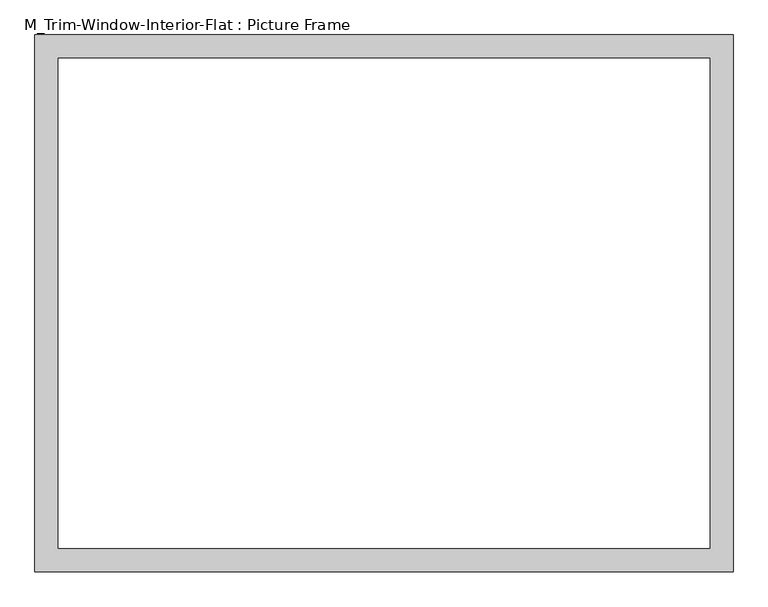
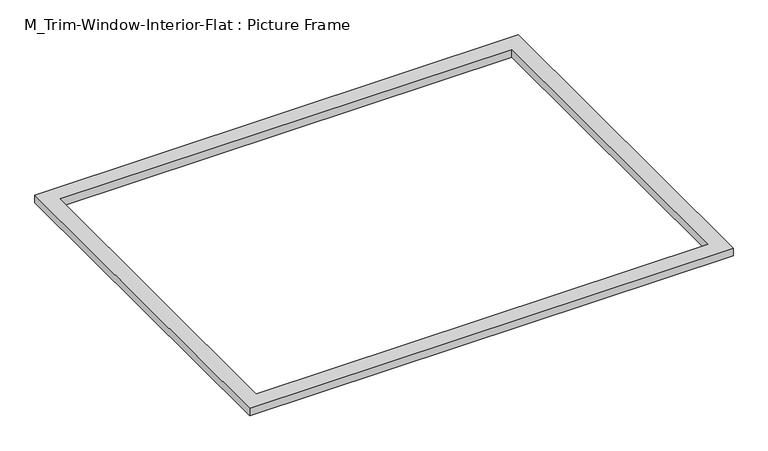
"""IFC4 building model written with IfcOpenShell, lengths in millimetres: proxy geometry, M_Trim-Window-Interior-Flat : Picture Frame."""

import ifcopenshell
import ifcopenshell.guid

model = None  # the IFC model being written
_history = None  # IfcOwnerHistory: only IFC2X3 demands one
_inside = {}  # id of a spatial element -> (the spatial element, [elements in it])
_under = {}  # id of a project, library or spatial element -> (it, [spatial elements below it])
_declared = {}  # id of a project -> (the project, [libraries it declares])
_typed = {}  # id of a type object -> (the type object, [elements of that type])
_made_of = {}  # id of a material, layer set ... -> (it, [elements and type objects made of it])


def new_model(schema):
    """Start an empty IFC model of exactly this schema.

    Asked for "IFC4X3", IfcOpenShell would pick the latest addendum, in which some entities
    have other attributes; the version numbers below select the first issue.
    IFC2X3 requires an IfcOwnerHistory on every rooted entity: one is made here for all.
    """
    global model, _history
    if schema == "IFC4X3":
        model = ifcopenshell.file(schema_version=(4, 3, 0, 0))
    else:
        model = ifcopenshell.file(schema=schema)
    _inside.clear()
    _under.clear()
    _declared.clear()
    _typed.clear()
    _made_of.clear()
    _history = None
    if model.schema == "IFC2X3":
        org = make("IfcOrganization", Name="unknown")
        user = make(
            "IfcPersonAndOrganization",
            ThePerson=make("IfcPerson", FamilyName="unknown"),
            TheOrganization=org,
        )
        app = make(
            "IfcApplication",
            ApplicationDeveloper=org,
            Version="unknown",
            ApplicationFullName="unknown",
            ApplicationIdentifier="unknown",
        )
        _history = make(
            "IfcOwnerHistory",
            OwningUser=user,
            OwningApplication=app,
            ChangeAction="ADDED",
            CreationDate=0,
        )
    return model


def make(cls, **values):
    """One entity of the class cls with the attributes given. An attribute that is None is left unset."""
    return model.create_entity(
        cls, **{name: value for name, value in values.items() if value is not None}
    )


def rooted(cls, **values):
    """An entity with a GlobalId (a new one), such as an element, a storey or a relation."""
    return make(cls, GlobalId=ifcopenshell.guid.new(), OwnerHistory=_history, **values)


def si_unit(unit_type, name, prefix=None):
    """IfcSIUnit, for example si_unit("LENGTHUNIT", "METRE", prefix="MILLI")."""
    return make("IfcSIUnit", UnitType=unit_type, Prefix=prefix, Name=name)


def assignment(units):
    """IfcUnitAssignment: the units of a project."""
    return None if units is None else make("IfcUnitAssignment", Units=units)


def point(xyz):
    """IfcCartesianPoint."""
    return None if xyz is None else make("IfcCartesianPoint", Coordinates=xyz)


def direction(xyz):
    """IfcDirection."""
    return None if xyz is None else make("IfcDirection", DirectionRatios=xyz)


def frame(location, z_axis=None, x_axis=None):
    """IfcAxis2Placement3D, a coordinate frame: its origin and axes. An axis left out is left unset."""
    return make(
        "IfcAxis2Placement3D",
        Location=point(location),
        Axis=direction(z_axis),
        RefDirection=direction(x_axis),
    )


def origin():
    """The frame at (0, 0, 0) with its axes left unset."""
    return frame((0.0, 0.0, 0.0))


def origin_with_axes():
    """The frame at (0, 0, 0) with the z axis (0, 0, 1) and the x axis (1, 0, 0) written out."""
    return frame((0.0, 0.0, 0.0), z_axis=(0.0, 0.0, 1.0), x_axis=(1.0, 0.0, 0.0))


def place(relative_to, where):
    """IfcLocalPlacement: puts the frame where relative to a parent placement (None: the world)."""
    return make(
        "IfcLocalPlacement", PlacementRelTo=relative_to, RelativePlacement=where
    )


def context(
    kind, dimensions, precision=None, world=None, true_north=None, identifier=None
):
    """IfcGeometricRepresentationContext, for example the 3D "Model" context."""
    return make(
        "IfcGeometricRepresentationContext",
        ContextIdentifier=identifier,
        ContextType=kind,
        CoordinateSpaceDimension=dimensions,
        Precision=precision,
        WorldCoordinateSystem=world,
        TrueNorth=true_north,
    )


def project(units=None, contexts=None):
    """IfcProject with its units and contexts."""
    return rooted(
        "IfcProject",
        Name="project",
        RepresentationContexts=contexts,
        UnitsInContext=assignment(units),
    )


def spatial(cls, under=None, at=None, **own):
    """A site, building, storey or space (cls), placed at a placement, below another one or the project."""
    s = rooted(cls, ObjectPlacement=at, **own)
    if under is not None:
        _under.setdefault(under.id(), (under, []))[1].append(s)
    return s


def polyline(points):
    """IfcPolyline through the points."""
    return make("IfcPolyline", Points=[point(p) for p in points])


def outline(outer, holes=None, kind="AREA"):
    """IfcArbitraryClosedProfileDef: a profile drawn as a closed curve; with holes, ...WithVoids."""
    if holes is None:
        return make("IfcArbitraryClosedProfileDef", ProfileType=kind, OuterCurve=outer)
    return make(
        "IfcArbitraryProfileDefWithVoids",
        ProfileType=kind,
        OuterCurve=outer,
        InnerCurves=holes,
    )


def extrude(swept, where, along, depth):
    """IfcExtrudedAreaSolid: the profile swept, set in the frame where, extruded along a direction by depth."""
    return make(
        "IfcExtrudedAreaSolid",
        SweptArea=swept,
        Position=where,
        ExtrudedDirection=direction(along),
        Depth=depth,
    )


def shape(context_of_items, identifier, shape_type, items):
    """IfcShapeRepresentation: the items that make up one representation, for example the "Body"."""
    return make(
        "IfcShapeRepresentation",
        ContextOfItems=context_of_items,
        RepresentationIdentifier=identifier,
        RepresentationType=shape_type,
        Items=items,
    )


def source(mapping_origin, context_of_items, identifier, shape_type, items):
    """IfcRepresentationMap: a shape defined once, which mapped items show again and again."""
    return make(
        "IfcRepresentationMap",
        MappingOrigin=mapping_origin,
        MappedRepresentation=shape(context_of_items, identifier, shape_type, items),
    )


def transform(
    local_origin,
    x_axis=None,
    y_axis=None,
    z_axis=None,
    scale=None,
    scale2=None,
    scale3=None,
    uniform=True,
):
    """IfcCartesianTransformationOperator3D, or its non-uniform kind. x_axis, y_axis, z_axis: its Axis1, 2, 3."""
    if uniform:
        return make(
            "IfcCartesianTransformationOperator3D",
            Axis1=direction(x_axis),
            Axis2=direction(y_axis),
            LocalOrigin=point(local_origin),
            Scale=scale,
            Axis3=direction(z_axis),
        )
    return make(
        "IfcCartesianTransformationOperator3DnonUniform",
        Axis1=direction(x_axis),
        Axis2=direction(y_axis),
        LocalOrigin=point(local_origin),
        Scale=scale,
        Axis3=direction(z_axis),
        Scale2=scale2,
        Scale3=scale3,
    )


def mapped(mapping_source, mapping_target):
    """IfcMappedItem: shows the shape of a source again, moved by a transform."""
    return make(
        "IfcMappedItem", MappingSource=mapping_source, MappingTarget=mapping_target
    )


def made_of(thing, what):
    """Note that an element or type object is made of a material, layer set ...; save() writes the relation."""
    if what is not None:
        _made_of.setdefault(what.id(), (what, []))[1].append(thing)
    return thing


def element(
    cls,
    number,
    at=None,
    inside=None,
    cuts=None,
    type_object=None,
    material=None,
    context=None,
    identifier="Body",
    shape_type=None,
    held_by="IfcProductDefinitionShape",
    body=None,
    shapes=None,
    **own,
):
    """One element of the class cls, such as IfcWall. Its Tag is "e" and its number.

    at: its placement. inside: the storey or other place that contains it. cuts: it is an
    opening in that element (IfcRelVoidsElement). A single representation is given by context,
    identifier, shape_type and body (its items); several are given by shapes. held_by: the class
    of the entity that holds the representations. save() writes the other relations.
    """
    e = rooted(cls, Tag="e%d" % number, ObjectPlacement=at, **own)
    if body is not None:
        shapes = [shape(context, identifier, shape_type, body)]
    if shapes is not None:
        e.Representation = make(held_by, Representations=shapes)
    if inside is not None:
        _inside.setdefault(inside.id(), (inside, []))[1].append(e)
    if cuts is not None:
        rooted(
            "IfcRelVoidsElement", RelatingBuildingElement=cuts, RelatedOpeningElement=e
        )
    if type_object is not None:
        _typed.setdefault(type_object.id(), (type_object, []))[1].append(e)
    return made_of(e, material)


def aggregate(whole, parts):
    """IfcRelAggregates: a whole, such as a stair, and the parts it consists of."""
    return rooted("IfcRelAggregates", RelatingObject=whole, RelatedObjects=parts)


def save(model, path):
    """Write the relations noted so far, then the file.

    IfcRelAggregates (storeys below a building ...), IfcRelContainedInSpatialStructure (elements
    in a storey), IfcRelDefinesByType, IfcRelAssociatesMaterial and IfcRelDeclares: one each for
    every whole, place, type object, material and project.
    """
    for whole, parts in _under.values():
        aggregate(whole, parts)
    for where, things in _inside.values():
        rooted(
            "IfcRelContainedInSpatialStructure",
            RelatedElements=things,
            RelatingStructure=where,
        )
    for kind, things in _typed.values():
        rooted("IfcRelDefinesByType", RelatedObjects=things, RelatingType=kind)
    for what, things in _made_of.values():
        rooted("IfcRelAssociatesMaterial", RelatedObjects=things, RelatingMaterial=what)
    for by, libraries in _declared.values():
        rooted("IfcRelDeclares", RelatingContext=by, RelatedDefinitions=libraries)
    model.write(path)


def m_trim_window_interior_flat_picture_frame_7d7f0072(model_context):
    return source(origin(), model_context, "Body", "SweptSolid", [
        extrude(outline(polyline([(897.3, 47.3), (897.3, -1332.3), (-897.3, -1332.3), (-897.3, 47.3), (897.3, 47.3)]), holes=[polyline([(837.3, -12.7), (-837.3, -12.7), (-837.3, -1272.3), (837.3, -1272.3), (837.3, -12.7)])]), origin_with_axes(), (0.0, 0.0, 1.0), 30.0),
    ])


if __name__ == "__main__":
    model = new_model("IFC4")
    model_context = context("Model", 3, world=origin())
    ifc_project = project(units=[si_unit("LENGTHUNIT", "METRE", prefix="MILLI")], contexts=[model_context])
    site = spatial("IfcSite", under=ifc_project)
    building = spatial("IfcBuilding", under=site)
    placement = place(None, origin())
    m_trim_window_interior_flat_picture_frame_shape = m_trim_window_interior_flat_picture_frame_7d7f0072(model_context)
    element("IfcBuildingElementProxy", 1, Name="M_Trim-Window-Interior-Flat : Picture Frame", ObjectType="M_Trim-Window-Interior-Flat : Picture Frame", at=placement, inside=building, context=model_context, shape_type="MappedRepresentation", body=[
        mapped(m_trim_window_interior_flat_picture_frame_shape, transform((0.0, 0.0, 0.0), x_axis=(1.0, 0.0, 0.0), y_axis=(0.0, 1.0, 0.0), z_axis=(0.0, 0.0, 1.0))),
    ])
    save(model, "model.ifc")
